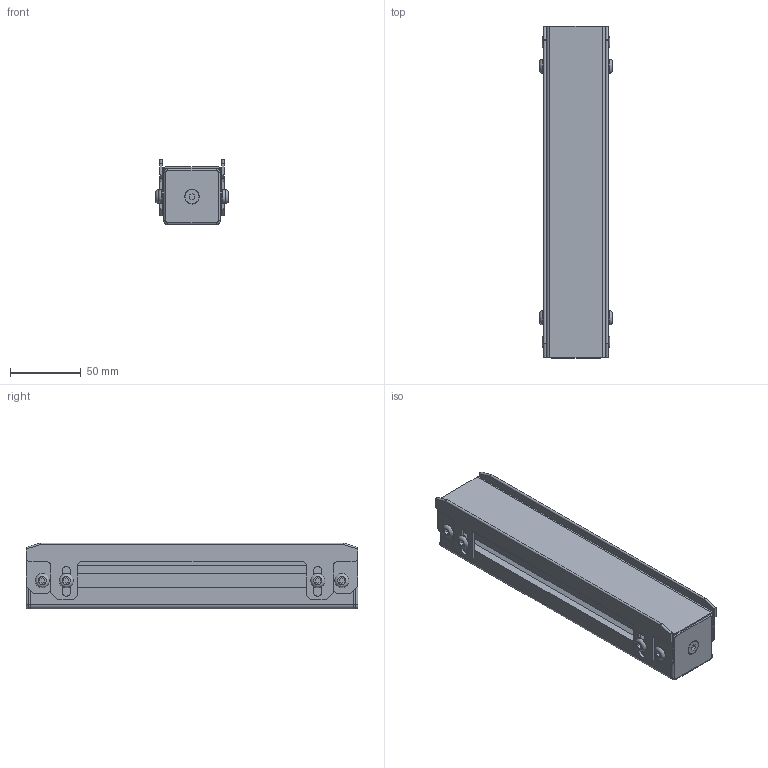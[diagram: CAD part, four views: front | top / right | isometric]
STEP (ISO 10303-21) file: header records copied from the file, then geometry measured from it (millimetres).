
FILE_DESCRIPTION(/* description */ (''),/* implementation_level */ '2;1');
FILE_NAME(/* name */ 'MGSS-FA-4040x235H.step',/* time_stamp */ '2022-12-15T12:55:17+09:00',/* author */ (''),/* organization */ (''),/* preprocessor_version */ 'ST-DEVELOPER v19.2',/* originating_system */ 'Autodesk Translation Framework v11.17.0.187',/* authorisation */ '');
FILE_SCHEMA (('AUTOMOTIVE_DESIGN { 1 0 10303 214 3 1 1 }'));
Length unit declared in the file: millimetre
Products named in the file (1): MGSS-FA-4040x235H
Bounding box: 51.6 x 235 x 46.5 mm (x, y, z)
Volume: 188357.9 mm3; surface area: 164580.3 mm2
Topology: 16 solids, 16 shells, 352 faces, 928 edges, 610 vertices
Faces by surface type: plane 236, cylinder 88, bspline 8, torus 8, sphere 8, cone 4
Full cylindrical faces by diameter (mm): 5 x2, 6 x4, 10 x8
Entity records: 10996 total; most frequent: CARTESIAN_POINT 1955, ORIENTED_EDGE 1856, DIRECTION 1844, EDGE_CURVE 928, LINE 702, VECTOR 702, VERTEX_POINT 610, AXIS2_PLACEMENT_3D 571
